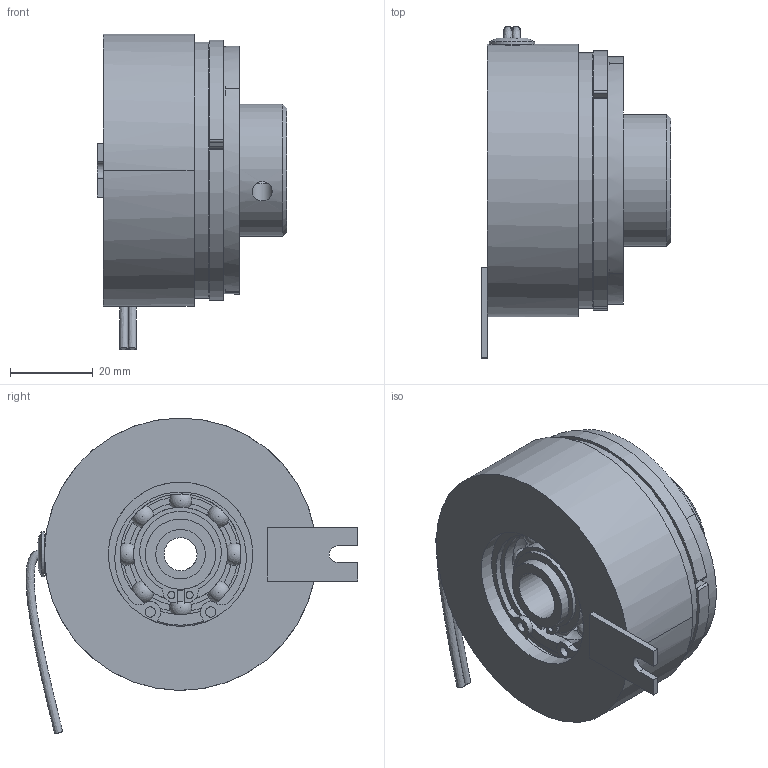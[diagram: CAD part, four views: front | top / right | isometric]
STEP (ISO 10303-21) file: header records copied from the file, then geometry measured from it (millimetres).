
FILE_DESCRIPTION(/* description */ (''),/* implementation_level */ '2;1');
FILE_NAME(/* name */ 'X:\INVENTOR\DISEGNI\08_Freni_Friz_Elettmag_Monodisco\08_25 EMSL\08_25_060_02 EMSL060_ME\08_25_060_02 EMSL060_ME@STEP.stp',/* time_stamp */ '2023-02-27T10:56:25+01:00',/* author */ ('alessio'),/* organization */ (''),/* preprocessor_version */ 'ST-DEVELOPER v18.1',/* originating_system */ 'Autodesk Inventor 2021',/* authorisation */ '');
FILE_SCHEMA (('AUTOMOTIVE_DESIGN { 1 0 10303 214 3 1 1 }'));
Length unit declared in the file: millimetre
Products named in the file (1): 08_25_060_02 EMSL060_ME
Bounding box: 46 x 80.44 x 76.55 mm (x, y, z)
Volume: 78307 mm3; surface area: 42062.6 mm2
Topology: 3 solids, 8 shells, 312 faces, 836 edges, 526 vertices
Faces by surface type: plane 121, cylinder 115, torus 60, sphere 8, cone 5, bspline 3
Full cylindrical faces by diameter (mm): 1.7 x2, 2.5 x5, 3.242 x3, 4 x4, 4.1 x6, 4.917 x1, 8 x4, 10 x3, 11 x1, 12 x1, 16.5 x1, 17 x3, 22.76 x2, 25 x1, 28 x1, 29.24 x2, 32 x1, 34 x1, 35 x3, 37 x1, 40 x1, 41.5 x1, 43.5 x1, 55.5 x1, 57.5 x1, 60 x1, 62 x1, 62.1 x1
Entity records: 11657 total; most frequent: CARTESIAN_POINT 3220, DIRECTION 1793, ORIENTED_EDGE 1644, EDGE_CURVE 822, AXIS2_PLACEMENT_3D 773, VERTEX_POINT 527, CIRCLE 463, EDGE_LOOP 382
